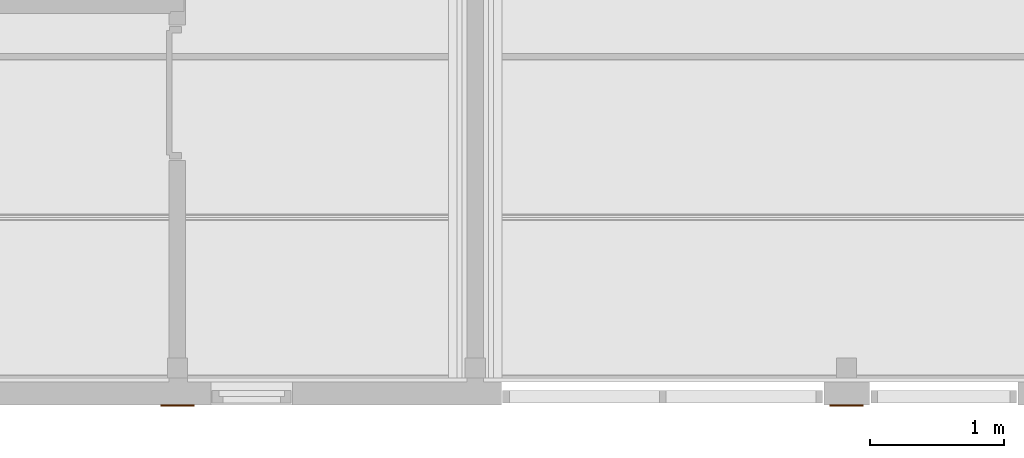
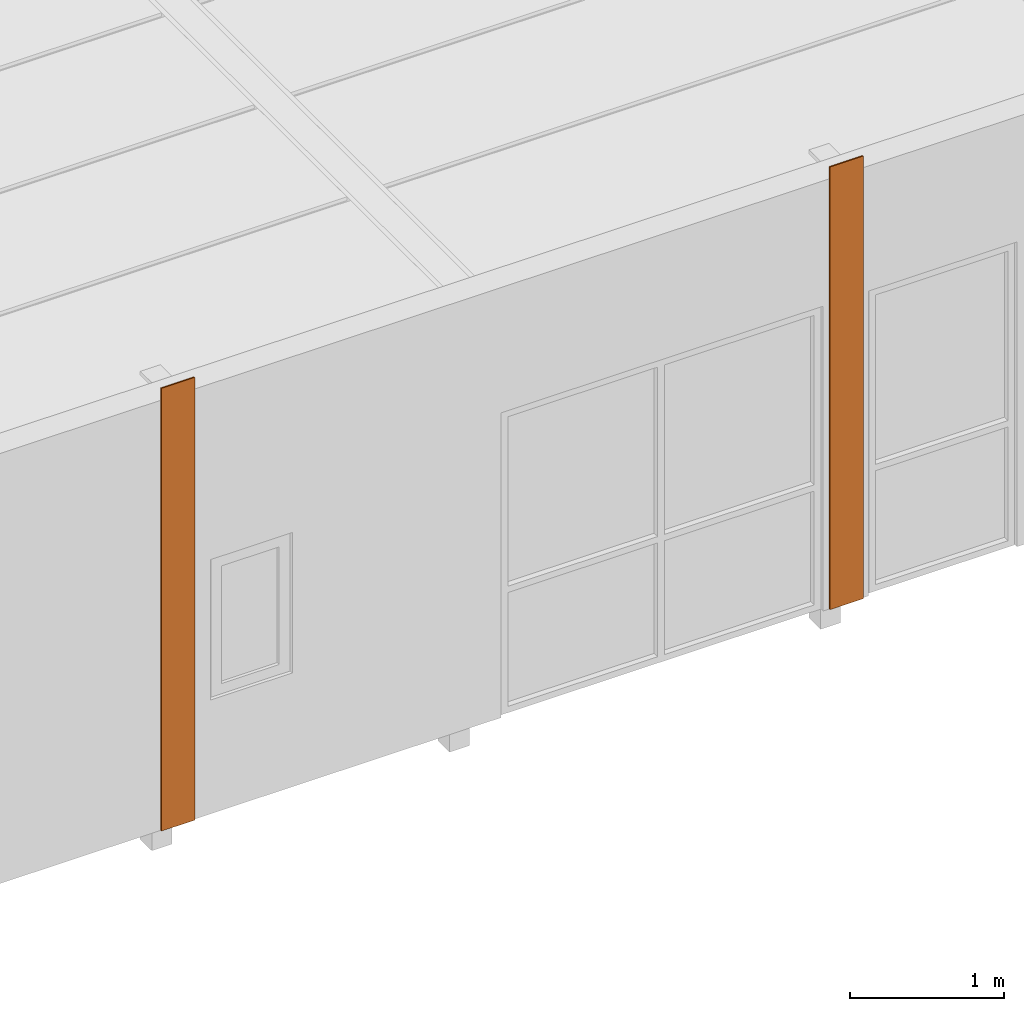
# One storey, part 43 of 45: 2 proxies.
"""IFC2X3 building model written with IfcOpenShell, lengths in millimetres."""

from ifc_helpers import new_model, entity, si_unit, converted_unit, frame, origin, place, context, subcontext, project, spatial, faceted_brep, material, element, save


model = new_model("IFC2X3")

# Units and contexts
model_context = context("Model", 3, precision=1e-05, world=origin())
plan_context = context("Plan", 3, precision=1e-05, world=origin())
body_context = subcontext(model_context, "Body", "Model", "MODEL_VIEW")
ifc_project = project(units=[si_unit("LENGTHUNIT", "METRE", prefix="MILLI"), converted_unit("PLANEANGLEUNIT", "DEGREE", entity("IfcPlaneAngleMeasure", 0.0174532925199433), si_unit("PLANEANGLEUNIT", "RADIAN"), dimensions=[0, 0, 0, 0, 0, 0, 0]), si_unit("AREAUNIT", "SQUARE_METRE"), si_unit("VOLUMEUNIT", "CUBIC_METRE")], contexts=[model_context, plan_context])

# Building, storey
building_placement = place(None, origin())
building = spatial("IfcBuilding", under=ifc_project, at=building_placement, Name="HEKF Administrasjonbygg", CompositionType="ELEMENT")
storey_placement = place(building_placement, frame((0.0, 0.0, 6500.0), z_axis=(0.0, 0.0, 1.0), x_axis=(1.0, 0.0, 0.0)))
storey = spatial("IfcBuildingStorey", under=building, at=storey_placement, Name="Plan 1", CompositionType="ELEMENT", Elevation=6500.0)

# Proxies
ifc_material_1 = material(Name="T24")
proxy_1_placement = place(storey_placement, frame((19874.98999999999, -12210.01000000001, -0.01000000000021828), z_axis=(0.0, 0.0, 1.0), x_axis=(1.0, 0.0, 0.0)))
element("IfcBuildingElementProxy", 1, at=proxy_1_placement, inside=storey, material=ifc_material_1, context=body_context, shape_type="Brep", body=[
    faceted_brep([(0.00999999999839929, 10.01000000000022, 0.01000000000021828), (0.00999999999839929, 10.01000000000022, 3500.01), (0.00999999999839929, 0.01000000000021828, 3500.01), (0.00999999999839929, 0.01000000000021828, 0.01000000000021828), (250.0099999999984, 10.01000000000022, 0.01000000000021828), (0.00999999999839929, 10.01000000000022, 0.01000000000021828), (0.00999999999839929, 0.01000000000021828, 0.01000000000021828), (250.0099999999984, 0.01000000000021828, 0.01000000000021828), (250.0099999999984, 10.01000000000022, 3500.01), (250.0099999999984, 10.01000000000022, 0.01000000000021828), (250.0099999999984, 0.01000000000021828, 0.01000000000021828), (250.0099999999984, 0.01000000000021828, 3500.01), (0.00999999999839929, 10.01000000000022, 3500.01), (250.0099999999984, 10.01000000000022, 3500.01), (250.0099999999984, 0.01000000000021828, 3500.01), (0.00999999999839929, 0.01000000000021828, 3500.01), (0.00999999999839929, 0.01000000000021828, 0.01000000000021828), (0.00999999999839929, 0.01000000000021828, 3500.01), (250.0099999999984, 0.01000000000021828, 3500.01), (250.0099999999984, 0.01000000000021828, 0.01000000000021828), (250.0099999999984, 10.01000000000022, 0.01000000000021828), (250.0099999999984, 10.01000000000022, 3500.01), (0.00999999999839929, 10.01000000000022, 3500.01), (0.00999999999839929, 10.01000000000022, 0.01000000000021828)], [[[0, 1, 2, 3]], [[4, 5, 6, 7]], [[8, 9, 10, 11]], [[12, 13, 14, 15]], [[16, 17, 18, 19]], [[20, 21, 22, 23]]], orient=[[False], [False], [False], [False], [False], [False]]),
])
ifc_material_2 = material(Name="T24")
proxy_2_placement = place(storey_placement, frame((24874.98999999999, -12210.01000000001, -0.01000000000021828), z_axis=(0.0, 0.0, 1.0), x_axis=(1.0, 0.0, 0.0)))
element("IfcBuildingElementProxy", 2, at=proxy_2_placement, inside=storey, material=ifc_material_2, context=body_context, shape_type="Brep", body=[
    faceted_brep([(0.00999999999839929, 10.01000000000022, 0.01000000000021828), (0.00999999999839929, 10.01000000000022, 3500.01), (0.00999999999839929, 0.01000000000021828, 3500.01), (0.00999999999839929, 0.01000000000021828, 0.01000000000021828), (250.0099999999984, 10.01000000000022, 0.01000000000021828), (0.00999999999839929, 10.01000000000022, 0.01000000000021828), (0.00999999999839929, 0.01000000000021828, 0.01000000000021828), (250.0099999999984, 0.01000000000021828, 0.01000000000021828), (250.0099999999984, 10.01000000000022, 3500.01), (250.0099999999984, 10.01000000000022, 0.01000000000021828), (250.0099999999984, 0.01000000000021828, 0.01000000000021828), (250.0099999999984, 0.01000000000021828, 3500.01), (0.00999999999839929, 10.01000000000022, 3500.01), (250.0099999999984, 10.01000000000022, 3500.01), (250.0099999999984, 0.01000000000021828, 3500.01), (0.00999999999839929, 0.01000000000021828, 3500.01), (0.00999999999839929, 0.01000000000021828, 0.01000000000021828), (0.00999999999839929, 0.01000000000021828, 3500.01), (250.0099999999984, 0.01000000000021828, 3500.01), (250.0099999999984, 0.01000000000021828, 0.01000000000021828), (250.0099999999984, 10.01000000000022, 0.01000000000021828), (250.0099999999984, 10.01000000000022, 3500.01), (0.00999999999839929, 10.01000000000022, 3500.01), (0.00999999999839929, 10.01000000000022, 0.01000000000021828)], [[[0, 1, 2, 3]], [[4, 5, 6, 7]], [[8, 9, 10, 11]], [[12, 13, 14, 15]], [[16, 17, 18, 19]], [[20, 21, 22, 23]]], orient=[[False], [False], [False], [False], [False], [False]]),
])

save(model, "model.ifc")
